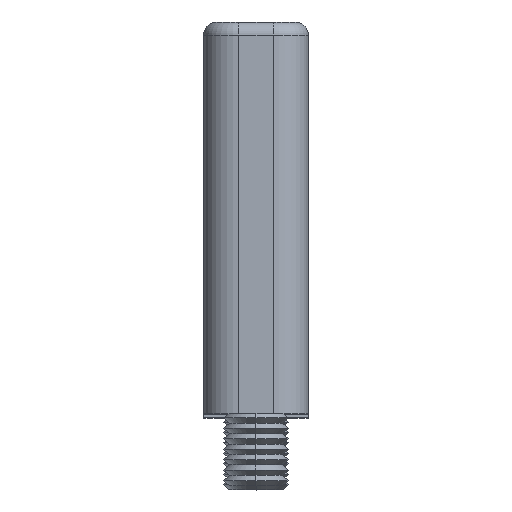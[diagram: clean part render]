
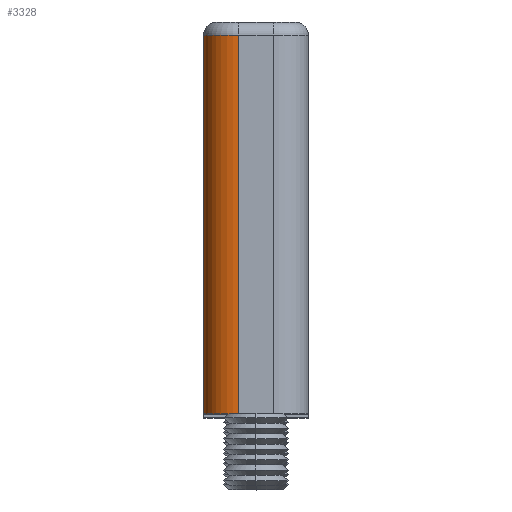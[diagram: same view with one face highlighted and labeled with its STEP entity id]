
A CAD part, top view. The second image highlights one B-rep face of the part: STEP entity #3328.
In plain terms, the highlighted cylindrical face has radius 2.667 mm (diameter 5.333 mm), a partial arc.
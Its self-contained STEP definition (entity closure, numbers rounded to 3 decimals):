
#39 = EDGE_LOOP ( 'NONE', ( #3394, #3133, #2207, #4142 ) ) ;
#361 = DIRECTION ( 'NONE',  ( 0., 0., 1. ) ) ;
#413 = VERTEX_POINT ( 'NONE', #3814 ) ;
#497 = DIRECTION ( 'NONE',  ( 0., 0., -1. ) ) ;
#1045 = CARTESIAN_POINT ( 'NONE',  ( -4.833, 29., -4. ) ) ;
#1055 = VERTEX_POINT ( 'NONE', #1045 ) ;
#1111 = CARTESIAN_POINT ( 'NONE',  ( -7.5, 0., -1.333 ) ) ;
#1342 = CARTESIAN_POINT ( 'NONE',  ( -4.833, 0., -4. ) ) ;
#1361 = DIRECTION ( 'NONE',  ( 0., 1., 0. ) ) ;
#1390 = DIRECTION ( 'NONE',  ( 0., 0., 1. ) ) ;
#1629 = VERTEX_POINT ( 'NONE', #1111 ) ;
#1869 = EDGE_CURVE ( 'NONE', #5439, #1629, #3772, .T. ) ;
#1878 = VECTOR ( 'NONE', #4613, 1000. ) ;
#1919 = DIRECTION ( 'NONE',  ( 0., -1., 0. ) ) ;
#1992 = DIRECTION ( 'NONE',  ( 0., -1., 0. ) ) ;
#2025 = LINE ( 'NONE', #2278, #1878 ) ;
#2207 = ORIENTED_EDGE ( 'NONE', *, *, #2489, .T. ) ;
#2278 = CARTESIAN_POINT ( 'NONE',  ( -7.5, 30., -1.333 ) ) ;
#2331 = EDGE_CURVE ( 'NONE', #413, #1629, #2025, .T. ) ;
#2439 = FACE_OUTER_BOUND ( 'NONE', #39, .T. ) ;
#2489 = EDGE_CURVE ( 'NONE', #1055, #5439, #2742, .T. ) ;
#2566 = AXIS2_PLACEMENT_3D ( 'NONE', #5877, #3121, #361 ) ;
#2742 = LINE ( 'NONE', #4833, #4050 ) ;
#3121 = DIRECTION ( 'NONE',  ( 0., -1., 0. ) ) ;
#3133 = ORIENTED_EDGE ( 'NONE', *, *, #4683, .T. ) ;
#3328 = ADVANCED_FACE ( 'NONE', ( #2439 ), #4599, .T. ) ;
#3394 = ORIENTED_EDGE ( 'NONE', *, *, #2331, .F. ) ;
#3725 = CARTESIAN_POINT ( 'NONE',  ( -4.833, 30., -1.333 ) ) ;
#3772 = CIRCLE ( 'NONE', #4214, 2.667 ) ;
#3814 = CARTESIAN_POINT ( 'NONE',  ( -7.5, 29., -1.333 ) ) ;
#3955 = AXIS2_PLACEMENT_3D ( 'NONE', #3725, #1919, #497 ) ;
#4050 = VECTOR ( 'NONE', #1992, 1000. ) ;
#4142 = ORIENTED_EDGE ( 'NONE', *, *, #1869, .T. ) ;
#4214 = AXIS2_PLACEMENT_3D ( 'NONE', #5061, #1361, #1390 ) ;
#4599 = CYLINDRICAL_SURFACE ( 'NONE', #3955, 2.667 ) ;
#4613 = DIRECTION ( 'NONE',  ( 0., -1., 0. ) ) ;
#4683 = EDGE_CURVE ( 'NONE', #413, #1055, #5028, .T. ) ;
#4833 = CARTESIAN_POINT ( 'NONE',  ( -4.833, 30., -4. ) ) ;
#5028 = CIRCLE ( 'NONE', #2566, 2.667 ) ;
#5061 = CARTESIAN_POINT ( 'NONE',  ( -4.833, 0., -1.333 ) ) ;
#5439 = VERTEX_POINT ( 'NONE', #1342 ) ;
#5877 = CARTESIAN_POINT ( 'NONE',  ( -4.833, 29., -1.333 ) ) ;
